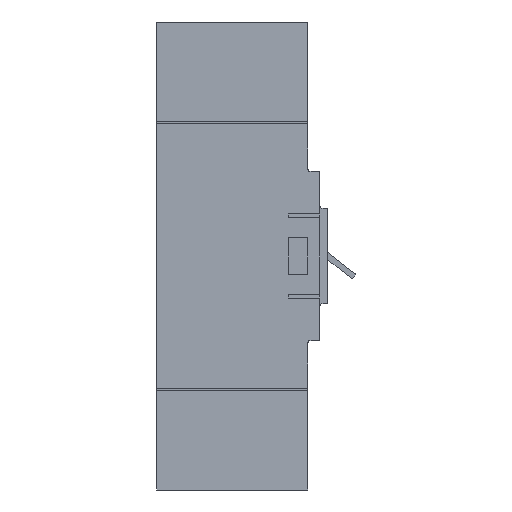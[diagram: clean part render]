
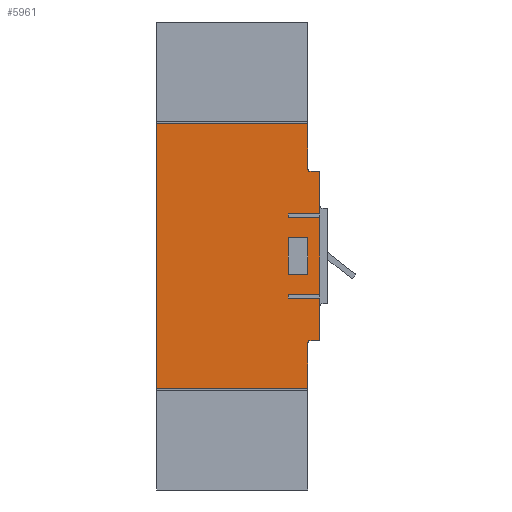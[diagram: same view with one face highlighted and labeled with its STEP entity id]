
A CAD part, left-side view. The second image highlights one B-rep face of the part: STEP entity #5961.
In plain terms, the highlighted planar face has unit normal (-1, 0, 0).
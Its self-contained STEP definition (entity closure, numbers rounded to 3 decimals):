
#171=CIRCLE('',#6284,1.);
#172=CIRCLE('',#6285,1.);
#173=CIRCLE('',#6286,1.);
#174=CIRCLE('',#6287,1.);
#320=FACE_BOUND('',#995,.T.);
#656=FACE_OUTER_BOUND('',#994,.T.);
#994=EDGE_LOOP('',(#5275,#5276,#5277,#5278,#5279,#5280,#5281,#5282,#5283,
#5284,#5285,#5286,#5287,#5288,#5289,#5290,#5291,#5292,#5293,#5294));
#995=EDGE_LOOP('',(#5295,#5296,#5297,#5298));
#1019=LINE('',#7650,#1681);
#1023=LINE('',#7659,#1685);
#1027=LINE('',#7666,#1689);
#1030=LINE('',#7673,#1692);
#1034=LINE('',#7682,#1696);
#1038=LINE('',#7689,#1700);
#1041=LINE('',#7696,#1703);
#1045=LINE('',#7704,#1707);
#1048=LINE('',#7710,#1710);
#1051=LINE('',#7715,#1713);
#1053=LINE('',#7720,#1715);
#1065=LINE('',#7743,#1727);
#1066=LINE('',#7744,#1728);
#1267=LINE('',#8413,#1929);
#1635=LINE('',#10129,#2297);
#1642=LINE('',#10143,#2304);
#1647=LINE('',#10163,#2309);
#1648=LINE('',#10166,#2310);
#1649=LINE('',#10168,#2311);
#1650=LINE('',#10172,#2312);
#1681=VECTOR('',#6322,16.);
#1685=VECTOR('',#6328,16.);
#1689=VECTOR('',#6334,2.);
#1692=VECTOR('',#6341,16.);
#1696=VECTOR('',#6347,16.);
#1700=VECTOR('',#6353,2.);
#1703=VECTOR('',#6360,10.);
#1707=VECTOR('',#6366,18.4);
#1710=VECTOR('',#6371,10.);
#1713=VECTOR('',#6376,18.4);
#1715=VECTOR('',#6382,20.3);
#1727=VECTOR('',#6394,20.3);
#1728=VECTOR('',#6395,38.4);
#1929=VECTOR('',#6680,133.);
#2297=VECTOR('',#7510,76.);
#2304=VECTOR('',#7527,76.);
#2309=VECTOR('',#7546,4.);
#2310=VECTOR('',#7549,23.);
#2311=VECTOR('',#7550,23.);
#2312=VECTOR('',#7553,4.);
#2343=VERTEX_POINT('',#7648);
#2344=VERTEX_POINT('',#7649);
#2347=VERTEX_POINT('',#7657);
#2348=VERTEX_POINT('',#7658);
#2351=VERTEX_POINT('',#7671);
#2352=VERTEX_POINT('',#7672);
#2355=VERTEX_POINT('',#7680);
#2356=VERTEX_POINT('',#7681);
#2359=VERTEX_POINT('',#7694);
#2360=VERTEX_POINT('',#7695);
#2363=VERTEX_POINT('',#7703);
#2365=VERTEX_POINT('',#7709);
#2367=VERTEX_POINT('',#7719);
#2378=VERTEX_POINT('',#7741);
#2611=VERTEX_POINT('',#8410);
#2612=VERTEX_POINT('',#8412);
#2876=VERTEX_POINT('',#10127);
#2878=VERTEX_POINT('',#10141);
#2885=VERTEX_POINT('',#10160);
#2886=VERTEX_POINT('',#10162);
#2887=VERTEX_POINT('',#10164);
#2888=VERTEX_POINT('',#10167);
#2889=VERTEX_POINT('',#10169);
#2890=VERTEX_POINT('',#10171);
#2911=EDGE_CURVE('',#2343,#2344,#1019,.T.);
#2915=EDGE_CURVE('',#2347,#2348,#1023,.T.);
#2919=EDGE_CURVE('',#2344,#2347,#1027,.T.);
#2922=EDGE_CURVE('',#2351,#2352,#1030,.T.);
#2926=EDGE_CURVE('',#2355,#2356,#1034,.T.);
#2930=EDGE_CURVE('',#2352,#2355,#1038,.T.);
#2933=EDGE_CURVE('',#2359,#2360,#1041,.T.);
#2937=EDGE_CURVE('',#2363,#2359,#1045,.T.);
#2940=EDGE_CURVE('',#2365,#2363,#1048,.T.);
#2943=EDGE_CURVE('',#2360,#2365,#1051,.T.);
#2945=EDGE_CURVE('',#2343,#2367,#1053,.T.);
#2957=EDGE_CURVE('',#2378,#2356,#1065,.T.);
#2958=EDGE_CURVE('',#2351,#2348,#1066,.T.);
#3218=EDGE_CURVE('',#2611,#2612,#1267,.T.);
#3697=EDGE_CURVE('',#2611,#2876,#1635,.T.);
#3704=EDGE_CURVE('',#2878,#2612,#1642,.T.);
#3713=EDGE_CURVE('',#2885,#2378,#171,.T.);
#3714=EDGE_CURVE('',#2886,#2885,#1647,.T.);
#3715=EDGE_CURVE('',#2887,#2886,#172,.T.);
#3716=EDGE_CURVE('',#2878,#2887,#1648,.T.);
#3717=EDGE_CURVE('',#2888,#2876,#1649,.T.);
#3718=EDGE_CURVE('',#2889,#2888,#173,.T.);
#3719=EDGE_CURVE('',#2890,#2889,#1650,.T.);
#3720=EDGE_CURVE('',#2367,#2890,#174,.T.);
#5275=ORIENTED_EDGE('',*,*,#2915,.T.);
#5276=ORIENTED_EDGE('',*,*,#2958,.F.);
#5277=ORIENTED_EDGE('',*,*,#2922,.T.);
#5278=ORIENTED_EDGE('',*,*,#2930,.T.);
#5279=ORIENTED_EDGE('',*,*,#2926,.T.);
#5280=ORIENTED_EDGE('',*,*,#2957,.F.);
#5281=ORIENTED_EDGE('',*,*,#3713,.F.);
#5282=ORIENTED_EDGE('',*,*,#3714,.F.);
#5283=ORIENTED_EDGE('',*,*,#3715,.F.);
#5284=ORIENTED_EDGE('',*,*,#3716,.F.);
#5285=ORIENTED_EDGE('',*,*,#3704,.T.);
#5286=ORIENTED_EDGE('',*,*,#3218,.F.);
#5287=ORIENTED_EDGE('',*,*,#3697,.T.);
#5288=ORIENTED_EDGE('',*,*,#3717,.F.);
#5289=ORIENTED_EDGE('',*,*,#3718,.F.);
#5290=ORIENTED_EDGE('',*,*,#3719,.F.);
#5291=ORIENTED_EDGE('',*,*,#3720,.F.);
#5292=ORIENTED_EDGE('',*,*,#2945,.F.);
#5293=ORIENTED_EDGE('',*,*,#2911,.T.);
#5294=ORIENTED_EDGE('',*,*,#2919,.T.);
#5295=ORIENTED_EDGE('',*,*,#2933,.T.);
#5296=ORIENTED_EDGE('',*,*,#2943,.T.);
#5297=ORIENTED_EDGE('',*,*,#2940,.T.);
#5298=ORIENTED_EDGE('',*,*,#2937,.T.);
#5658=PLANE('',#6283);
#5961=ADVANCED_FACE('',(#656,#320),#5658,.F.);
#6283=AXIS2_PLACEMENT_3D('',#10159,#7542,#7543);
#6284=AXIS2_PLACEMENT_3D('',#10161,#7544,#7545);
#6285=AXIS2_PLACEMENT_3D('',#10165,#7547,#7548);
#6286=AXIS2_PLACEMENT_3D('',#10170,#7551,#7552);
#6287=AXIS2_PLACEMENT_3D('',#10173,#7554,#7555);
#6322=DIRECTION('',(0.,1.,0.));
#6328=DIRECTION('',(0.,-1.,0.));
#6334=DIRECTION('',(0.,0.,1.));
#6341=DIRECTION('',(0.,1.,0.));
#6347=DIRECTION('',(0.,-1.,0.));
#6353=DIRECTION('',(0.,0.,1.));
#6360=DIRECTION('',(0.,-1.,0.));
#6366=DIRECTION('',(0.,0.,1.));
#6371=DIRECTION('',(0.,1.,0.));
#6376=DIRECTION('',(0.,0.,-1.));
#6382=DIRECTION('',(0.,0.,-1.));
#6394=DIRECTION('',(0.,0.,-1.));
#6395=DIRECTION('',(0.,0.,-1.));
#6680=DIRECTION('',(0.,0.,1.));
#7510=DIRECTION('',(0.,-1.,0.));
#7527=DIRECTION('',(0.,1.,0.));
#7542=DIRECTION('center_axis',(1.,0.,0.));
#7543=DIRECTION('ref_axis',(0.,0.,1.));
#7544=DIRECTION('center_axis',(1.,0.,0.));
#7545=DIRECTION('ref_axis',(0.,-0.707,0.707));
#7546=DIRECTION('',(0.,-1.,0.));
#7547=DIRECTION('center_axis',(-1.,0.,0.));
#7548=DIRECTION('ref_axis',(0.,0.707,-0.707));
#7549=DIRECTION('',(0.,0.,-1.));
#7550=DIRECTION('',(0.,0.,-1.));
#7551=DIRECTION('center_axis',(-1.,0.,0.));
#7552=DIRECTION('ref_axis',(0.,0.707,0.707));
#7553=DIRECTION('',(0.,1.,0.));
#7554=DIRECTION('center_axis',(1.,0.,0.));
#7555=DIRECTION('ref_axis',(0.,-0.707,-0.707));
#7648=CARTESIAN_POINT('',(10.,-78.,-223.7));
#7649=CARTESIAN_POINT('',(10.,-62.,-223.7));
#7650=CARTESIAN_POINT('',(10.,-59.514,-223.7));
#7657=CARTESIAN_POINT('',(10.,-62.,-221.7));
#7658=CARTESIAN_POINT('',(10.,-78.,-221.7));
#7659=CARTESIAN_POINT('',(10.,-51.514,-221.7));
#7666=CARTESIAN_POINT('',(10.,-62.,-213.301));
#7671=CARTESIAN_POINT('',(10.,-78.,-183.3));
#7672=CARTESIAN_POINT('',(10.,-62.,-183.3));
#7673=CARTESIAN_POINT('',(10.,-59.514,-183.3));
#7680=CARTESIAN_POINT('',(10.,-62.,-181.3));
#7681=CARTESIAN_POINT('',(10.,-78.,-181.3));
#7682=CARTESIAN_POINT('',(10.,-51.514,-181.3));
#7689=CARTESIAN_POINT('',(10.,-62.,-193.101));
#7694=CARTESIAN_POINT('',(10.,-62.,-193.3));
#7695=CARTESIAN_POINT('',(10.,-72.,-193.3));
#7696=CARTESIAN_POINT('',(10.,-51.514,-193.3));
#7703=CARTESIAN_POINT('',(10.,-62.,-211.7));
#7704=CARTESIAN_POINT('',(10.,-62.,-207.301));
#7709=CARTESIAN_POINT('',(10.,-72.,-211.7));
#7710=CARTESIAN_POINT('',(10.,-56.514,-211.7));
#7715=CARTESIAN_POINT('',(10.,-72.,-198.101));
#7719=CARTESIAN_POINT('',(10.,-78.,-244.));
#7720=CARTESIAN_POINT('',(10.,-78.,-160.));
#7741=CARTESIAN_POINT('',(10.,-78.,-161.));
#7743=CARTESIAN_POINT('',(10.,-78.,-160.));
#7744=CARTESIAN_POINT('',(10.,-78.,-160.));
#8410=CARTESIAN_POINT('',(10.,4.,-269.));
#8412=CARTESIAN_POINT('',(10.,4.,-136.));
#8413=CARTESIAN_POINT('',(10.,4.,-270.));
#10127=CARTESIAN_POINT('',(10.,-72.,-269.));
#10129=CARTESIAN_POINT('',(10.,-18.514,-269.));
#10141=CARTESIAN_POINT('',(10.,-72.,-136.));
#10143=CARTESIAN_POINT('',(10.,-18.514,-136.));
#10159=CARTESIAN_POINT('Origin',(10.,-41.027,-202.902));
#10160=CARTESIAN_POINT('',(10.,-77.,-160.));
#10161=CARTESIAN_POINT('Origin',(10.,-77.,-161.));
#10162=CARTESIAN_POINT('',(10.,-73.,-160.));
#10163=CARTESIAN_POINT('',(10.,-72.,-160.));
#10164=CARTESIAN_POINT('',(10.,-72.,-159.));
#10165=CARTESIAN_POINT('Origin',(10.,-73.,-159.));
#10166=CARTESIAN_POINT('',(10.,-72.,-135.));
#10167=CARTESIAN_POINT('',(10.,-72.,-246.));
#10168=CARTESIAN_POINT('',(10.,-72.,-245.));
#10169=CARTESIAN_POINT('',(10.,-73.,-245.));
#10170=CARTESIAN_POINT('Origin',(10.,-73.,-246.));
#10171=CARTESIAN_POINT('',(10.,-77.,-245.));
#10172=CARTESIAN_POINT('',(10.,-78.,-245.));
#10173=CARTESIAN_POINT('Origin',(10.,-77.,-244.));
